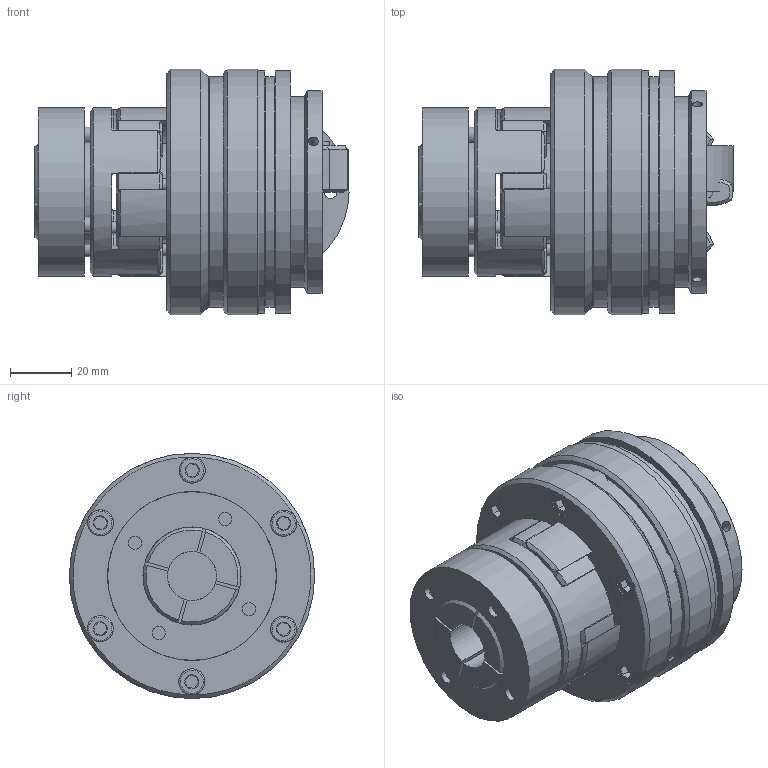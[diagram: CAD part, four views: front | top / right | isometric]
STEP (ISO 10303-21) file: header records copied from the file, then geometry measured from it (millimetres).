
FILE_DESCRIPTION( ( 'Unknown' ), '1' );
FILE_NAME( 'C:/Dokumente und Einstellungen/Sven/Desktop/hp kbk/E-AP/KBK EAP-24-78.stp', 'Unknown', ( 'Unknown' ), ( 'Unknown' ), 'XStep 1.0', 'Unknown', ' ' );
FILE_SCHEMA( ( 'automotive_design' ) );
Length unit declared in the file: millimetre
Products named in the file (17): Assem1; Assem2; Assem3; ball_bearing_-_6007_0_01; ball_bearing_-_6007_0_02; ball_bearing_-_6007_0_03; Zylinderschraube DIN 912_1; KBK L-P-60 Grundkörper; Stellring 60; Druckring 60; Flansch 60; a_35; Elastomerflansch 24; Zahnkranz_24_Standard; ISO EN DIN 4762_M5x20; KBE3-24_Druckring; KBE3 C - 24 Nabe
Bounding box: 102.4 x 80 x 80 mm (x, y, z)
Volume: 542228 mm3; surface area: 238782.4 mm2
Topology: 40 solids, 40 shells, 1030 faces, 2258 edges, 1386 vertices
Faces by surface type: plane 338, cylinder 318, cone 309, torus 65
Full cylindrical faces by diameter (mm): 2.5 x4, 3.242 x6, 4 x22, 4.134 x16, 4.2 x8, 4.959 x8, 5 x13, 5.2 x12, 8.5 x25, 9.5 x8, 16 x2, 27 x4, 30 x4, 33 x2, 34.625 x2, 35 x7, 43.7 x6, 44 x2, 46 x4, 46.5 x2, 53.6 x6, 55 x6, 61.3 x2, 62 x7, 66 x2, 75 x4, 79 x2, 80 x2
Entity records: 12998 total; most frequent: CARTESIAN_POINT 2663, DIRECTION 2038, ORIENTED_EDGE 1602, AXIS2_PLACEMENT_3D 940, EDGE_CURVE 801, EDGE_LOOP 636, VERTEX_POINT 549, FACE_OUTER_BOUND 520
